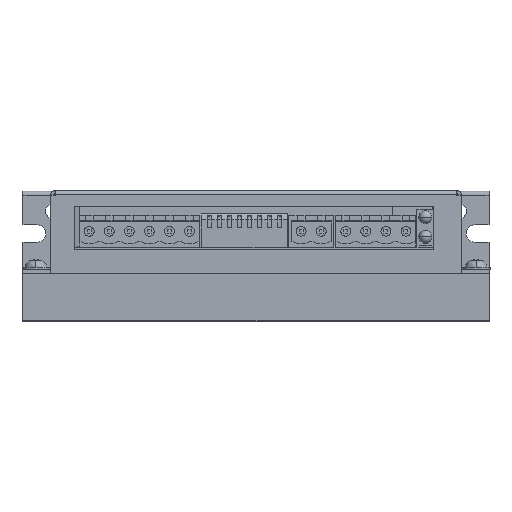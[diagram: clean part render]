
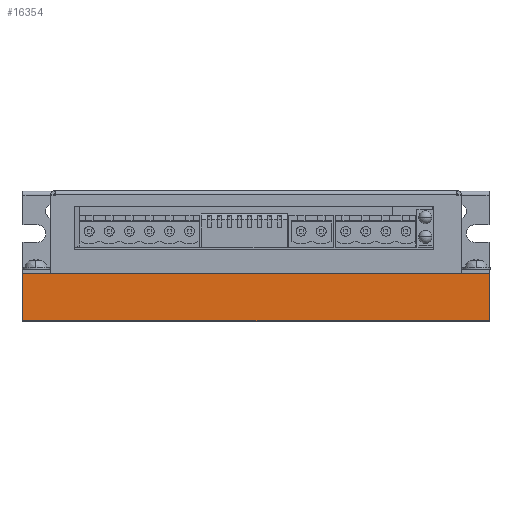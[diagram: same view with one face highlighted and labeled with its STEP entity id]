
A CAD part, top view. The second image highlights one B-rep face of the part: STEP entity #16354.
In plain terms, the highlighted planar face has unit normal (0, 0, 1).
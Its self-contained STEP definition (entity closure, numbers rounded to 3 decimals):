
#5693=DIRECTION('',(0.,-1.,0.));
#5694=VECTOR('',#5693,12.);
#5695=CARTESIAN_POINT('',(0.,-21.,0.));
#5696=LINE('',#5695,#5694);
#5697=DIRECTION('',(-1.,0.,0.));
#5698=VECTOR('',#5697,118.);
#5699=CARTESIAN_POINT('',(118.,-21.,0.));
#5700=LINE('',#5699,#5698);
#5701=DIRECTION('',(0.,1.,0.));
#5702=VECTOR('',#5701,12.);
#5703=CARTESIAN_POINT('',(118.,-33.,0.));
#5704=LINE('',#5703,#5702);
#5709=DIRECTION('',(-1.,0.,0.));
#5710=VECTOR('',#5709,118.);
#5711=CARTESIAN_POINT('',(118.,-33.,0.));
#5712=LINE('',#5711,#5710);
#9901=CARTESIAN_POINT('',(0.,-21.,0.));
#9902=VERTEX_POINT('',#9901);
#9903=CARTESIAN_POINT('',(0.,-33.,0.));
#9904=VERTEX_POINT('',#9903);
#11075=CARTESIAN_POINT('',(118.,-21.,0.));
#11076=VERTEX_POINT('',#11075);
#11077=CARTESIAN_POINT('',(118.,-33.,0.));
#11078=VERTEX_POINT('',#11077);
#16342=CARTESIAN_POINT('',(59.,-27.,0.));
#16343=DIRECTION('',(0.,0.,1.));
#16344=DIRECTION('',(0.,1.,0.));
#16345=AXIS2_PLACEMENT_3D('',#16342,#16343,#16344);
#16346=PLANE('',#16345);
#16347=ORIENTED_EDGE('',*,*,#12508,.F.);
#16348=ORIENTED_EDGE('',*,*,#16254,.F.);
#16349=ORIENTED_EDGE('',*,*,#15020,.F.);
#16351=ORIENTED_EDGE('',*,*,#16350,.T.);
#16352=EDGE_LOOP('',(#16347,#16348,#16349,#16351));
#16353=FACE_OUTER_BOUND('',#16352,.F.);
#16354=ADVANCED_FACE('',(#16353),#16346,.T.);
#12508=EDGE_CURVE('',#9902,#9904,#5696,.T.);
#15020=EDGE_CURVE('',#11078,#11076,#5704,.T.);
#16254=EDGE_CURVE('',#11076,#9902,#5700,.T.);
#16350=EDGE_CURVE('',#11078,#9904,#5712,.T.);
